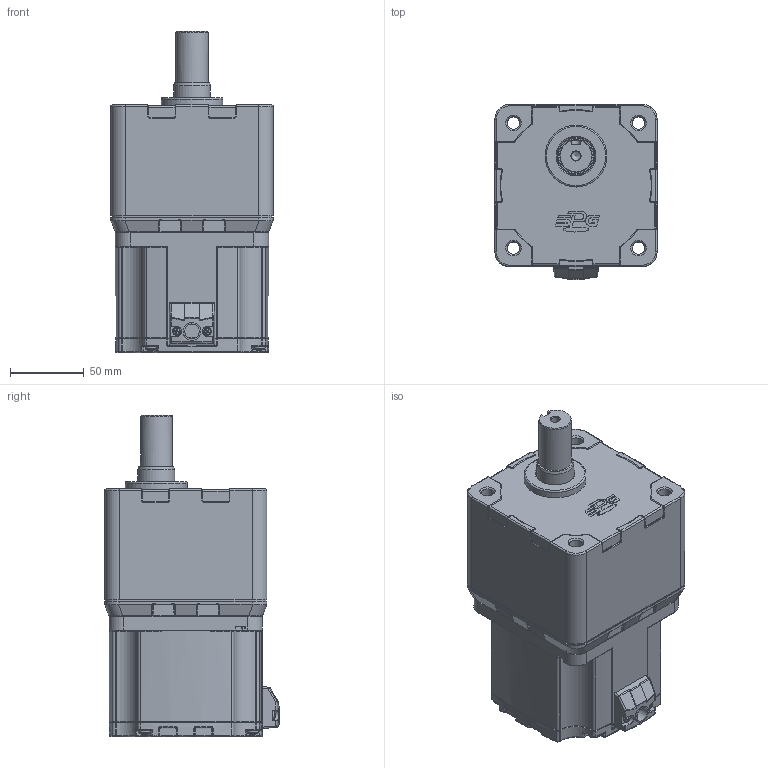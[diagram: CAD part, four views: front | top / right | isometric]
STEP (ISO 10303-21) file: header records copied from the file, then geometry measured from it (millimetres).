
FILE_DESCRIPTION((''),'2;1');
FILE_NAME('C:\Documents and Settings\Administrator\바탕 화면\BLDC 3D FILE\GEARED MOTOR\104-RATIO 100~200.stp','2014-06-19T16:11:26',('kdhkdh'),(''),'Autodesk Inventor 2011','Autodesk Inventor 2011','');
FILE_SCHEMA(('AUTOMOTIVE_DESIGN { 1 0 10303 214 1 1 1 1 }'));
Length unit declared in the file: millimetre
Products named in the file (1): 부품1
Bounding box: 110 x 118.5 x 218 mm (x, y, z)
Volume: 1538325.2 mm3; surface area: 203787 mm2
Topology: 1 solids, 14 shells, 1266 faces, 3157 edges, 1899 vertices
Faces by surface type: cylinder 431, plane 361, torus 183, bspline 148, cone 109, sphere 34
Full cylindrical faces by diameter (mm): 2.729 x2, 3 x2, 3.5 x2, 3.621 x4, 4 x12, 4.5 x8, 5.3 x2, 6 x1, 7.64 x4, 8 x4, 8.5 x8, 9.5 x4, 10 x1, 12 x1, 12.04 x1, 13 x1, 15 x1, 22 x2, 25 x1, 26 x1, 42 x1, 81 x1, 94 x2, 95.185 x1, 97 x2
Entity records: 41610 total; most frequent: CARTESIAN_POINT 12758, DIRECTION 6140, ORIENTED_EDGE 5804, EDGE_CURVE 2902, AXIS2_PLACEMENT_3D 2509, VERTEX_POINT 1843, EDGE_LOOP 1471, CIRCLE 1266
